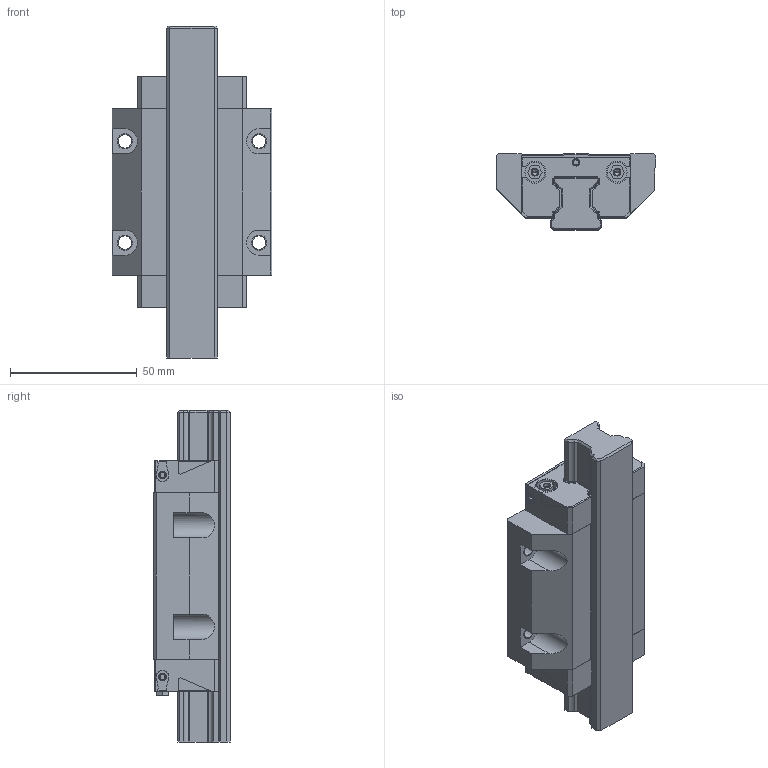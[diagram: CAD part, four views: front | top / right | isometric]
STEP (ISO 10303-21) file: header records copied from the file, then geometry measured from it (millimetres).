
FILE_DESCRIPTION((''),'2;1');
FILE_NAME('KWD_020_FLS_CS__ASM','2021-10-13T05:35:59',('ac91sw'),(''),'CREO PARAMETRIC BY PTC INC, 2020044','CREO PARAMETRIC BY PTC INC, 2020044','');
FILE_SCHEMA(('AUTOMOTIVE_DESIGN { 1 0 10303 214 1 1 1 1 }'));
Length unit declared in the file: millimetre
Products named in the file (7): KWD_020_FLS_CS__SKEL; R200280131; R200180102_Z; R343708901_Z; KWD_020_FLS_CS__PSF; R341702909_Z; KWD_020_FLS_CS__ASM
Assembly tree (11 placements, depth 2):
  KWD_020_FLS_CS__ASM
    KWD_020_FLS_CS__SKEL
    R200280131
    R200180102_Z  x2
    R343708901_Z  x5
    KWD_020_FLS_CS__PSF
    R341702909_Z
Bounding box: 63 x 30 x 131 mm (x, y, z)
Volume: 122080.2 mm3; surface area: 42914.9 mm2
Topology: 10 solids, 28 shells, 543 faces, 1414 edges, 911 vertices
Faces by surface type: plane 317, cylinder 166, cone 60
Entity records: 17651 total; most frequent: CARTESIAN_POINT 2151, DIRECTION 1876, ORIENTED_EDGE 1744, EDGE_CURVE 896, PROPERTY_DEFINITION 825, REPRESENTATION 816, PROPERTY_DEFINITION_REPRESENTATION 816, DESCRIPTIVE_REPRESENTATION_ITEM 759
